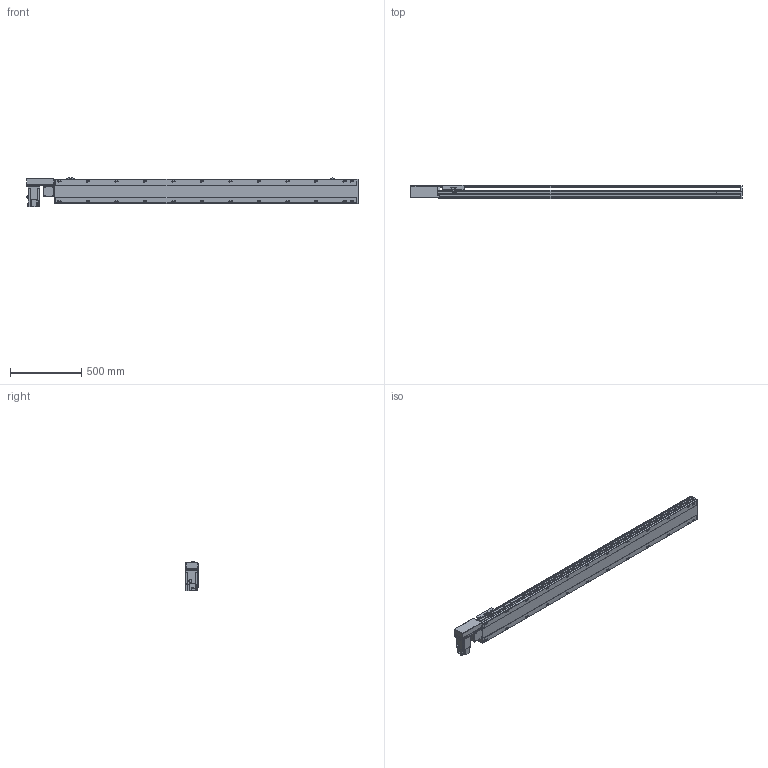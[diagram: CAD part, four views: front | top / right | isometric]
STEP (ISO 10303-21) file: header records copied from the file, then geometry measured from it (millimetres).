
FILE_DESCRIPTION(/* description */ ('STEP AP214'),/* implementation_level */ '2;1');
FILE_NAME(/* name */ 'PBS170-P40-S1850-R-T75-C1-N(0)',/* time_stamp */ '2022-06-07T09:31:15+02:00',/* author */ ('License CC BY-ND 4.0'),/* organization */ ('CADENAS'),/* preprocessor_version */ 'ST-DEVELOPER v18.102',/* originating_system */ 'PARTsolutions',/* authorisation */ ' ');
FILE_SCHEMA (('AUTOMOTIVE_DESIGN {1 0 10303 214 3 1 1}'));
Length unit declared in the file: millimetre
Products named in the file (7): PBS170-P40-S1850-R-T75-C1-N(0); PBS170_sensor; PBS170_plant; PBS170_sliser; T75-p1; PBS170T-R_motors; PBS170-S1850()_body
Assembly tree (8 placements, depth 2):
  PBS170-P40-S1850-R-T75-C1-N(0)
    PBS170_sensor  x3
    PBS170_plant
    PBS170_sliser
    T75-p1
    PBS170T-R_motors
    PBS170-S1850()_body
Bounding box: 2328 x 97 x 205.3 mm (x, y, z)
Volume: 17044186.4 mm3; surface area: 2171960.1 mm2
Topology: 8 solids, 8 shells, 1146 faces, 3035 edges, 1978 vertices
Faces by surface type: plane 711, cylinder 371, cone 54, sphere 8, torus 2
Full cylindrical faces by diameter (mm): 3.242 x4, 4 x2, 4.4 x4, 4.5 x6, 4.917 x4, 6 x9, 6.647 x32, 7 x2, 7.5 x4, 8 x8, 8.5 x24, 10 x4, 10.5 x24, 11 x2, 30 x2, 40 x1, 70 x1
Entity records: 32950 total; most frequent: CARTESIAN_POINT 6161, DIRECTION 5580, ORIENTED_EDGE 5268, EDGE_CURVE 2634, AXIS2_PLACEMENT_3D 1957, VERTEX_POINT 1826, LINE 1666, VECTOR 1666
